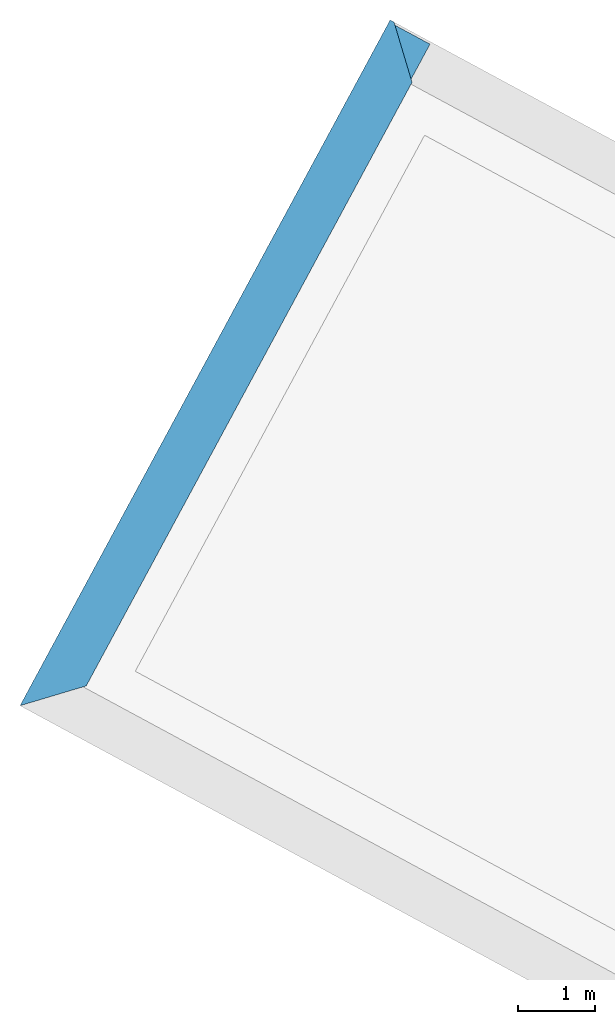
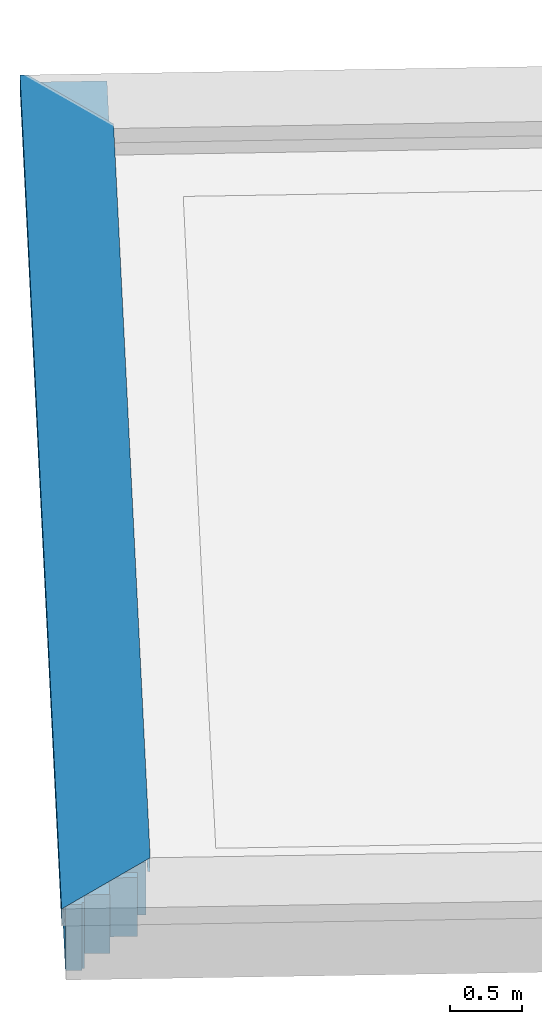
# One storey, part 2 of 5: 1 wall.
"""IFC2X3 building model written with IfcOpenShell, lengths in metres."""

from ifc_helpers import new_model, entity, si_unit, converted_unit, derived_unit, money_unit, direction, frame, origin_with_axes, place, context, subcontext, project, spatial, faceted_brep, material, material_list, type_object, element, save


model = new_model("IFC2X3")

# Units and contexts
model_context = context("Model", 3, precision=1e-05, world=origin_with_axes(), true_north=direction((0.0, 1.0)))
body_context = subcontext(model_context, "Body", "Model", "MODEL_VIEW")
ifc_project = project(units=[si_unit("LENGTHUNIT", "METRE"), si_unit("AREAUNIT", "SQUARE_METRE"), si_unit("VOLUMEUNIT", "CUBIC_METRE"), converted_unit("PLANEANGLEUNIT", "DEGREE", entity("IfcPlaneAngleMeasure", 0.0174532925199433), si_unit("PLANEANGLEUNIT", "RADIAN"), dimensions=[0, 0, 0, 0, 0, 0, 0]), money_unit("EUR"), converted_unit("TIMEUNIT", "Year", entity("IfcTimeMeasure", 31556926.0), si_unit("TIMEUNIT", "SECOND"), dimensions=[0, 0, 1, 0, 0, 0, 0]), si_unit("MASSUNIT", "GRAM", prefix="KILO"), si_unit("THERMODYNAMICTEMPERATUREUNIT", "DEGREE_CELSIUS"), si_unit("LUMINOUSINTENSITYUNIT", "LUMEN"), si_unit("ENERGYUNIT", "JOULE", prefix="MEGA"), derived_unit("THERMALCONDUCTANCEUNIT", [(si_unit("POWERUNIT", "WATT"), 1), (si_unit("LENGTHUNIT", "METRE"), -1), (si_unit("THERMODYNAMICTEMPERATUREUNIT", "KELVIN"), -1)]), derived_unit("SPECIFICHEATCAPACITYUNIT", [(si_unit("ENERGYUNIT", "JOULE"), 1), (si_unit("MASSUNIT", "GRAM", prefix="KILO"), -1), (si_unit("THERMODYNAMICTEMPERATUREUNIT", "KELVIN"), -1)]), derived_unit("MASSDENSITYUNIT", [(si_unit("MASSUNIT", "GRAM", prefix="KILO"), 1), (si_unit("VOLUMEUNIT", "CUBIC_METRE"), -1)])], contexts=[model_context])

# Site, building, storey
site_placement = place(None, frame((-3.949935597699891, 1.740105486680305, 0.0), z_axis=(0.0, 0.0, 1.0), x_axis=(0.8799804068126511, -0.475009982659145, 0.0)))
site = spatial("IfcSite", under=ifc_project, at=site_placement, Name="Gelände", CompositionType="ELEMENT")
building_placement = place(site_placement, origin_with_axes())
building = spatial("IfcBuilding", under=site, at=building_placement, Name="Gebäude", CompositionType="ELEMENT")
storey_placement = place(building_placement, frame((0.0, 0.0, 7.904999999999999), z_axis=(0.0, 0.0, 1.0), x_axis=(1.0, 0.0, 0.0)))
storey = spatial("IfcBuildingStorey", under=building, at=storey_placement, Name="Dachaufsicht", CompositionType="ELEMENT", Elevation=7.905)

# Wall
ifc_material_1 = material(Name="_SIWH - Metall, Aluminium")
ifc_material_2 = material(Name="_SIWH - MW Vormauerziegel")
ifc_material_3 = material(Name="_SIWH - Luftschicht vertikal")
ifc_material_4 = material(Name="_SIWH - Dämmung, weich Mineralwolle")
ifc_material_5 = material(Name="_SIWH - Beton, Stahlbeton")
ifc_material_6 = material(Name="_SIWH - Dämmung, hart Mineralwolle")
ifc_material_7 = material(Name="_SIWH - Holz, Bauholz")
ifc_material_list = material_list([ifc_material_1, ifc_material_2, ifc_material_3, ifc_material_4, ifc_material_5, ifc_material_6, ifc_material_7])
wall_type = type_object("IfcWallType", Name="_SIWH - Attika 1.OG 635 x 625", PredefinedType="NOTDEFINED")
wall_placement = place(storey_placement, frame((5.397480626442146, 1.424987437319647, -0.1909999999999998), z_axis=(0.0, 0.0, 1.0), x_axis=(0.0, 1.0, 0.0)))
element("IfcWall", 1, at=wall_placement, inside=storey, type_object=wall_type, material=ifc_material_list, Name="A-Wand033", context=body_context, shape_type="Brep", body=[
    faceted_brep([(-0.3441249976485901, 0.3449999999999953, 0.4808750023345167), (-0.3449999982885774, 0.3449999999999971, 0.4800000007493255), (-0.3441249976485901, 0.3441249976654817, 0.4808750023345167), (-0.3401715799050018, 0.3449999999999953, 0.484828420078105), (-0.3430000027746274, 0.3449999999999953, 0.4848284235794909), (-0.3430000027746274, 0.3449999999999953, 0.4857034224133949), (-0.3430000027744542, 0.3449999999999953, 0.4999999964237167), (-0.3430000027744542, 0.3449999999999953, 0.5014142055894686), (-0.3430000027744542, 0.3449999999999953, 0.5020656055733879), (-0.3430000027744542, 0.3449999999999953, 0.5599999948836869), (-0.3430000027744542, 0.3449999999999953, 0.5849999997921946), (-0.3430000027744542, 0.3449999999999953, 0.6229287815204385), (-0.2858221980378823, 0.3449999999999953, 0.6229287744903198), (-0.3449999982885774, 0.3449999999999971, 0.6249999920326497), (9.77781358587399, 0.3449999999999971, 0.6249999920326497), (9.77781358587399, 0.3449999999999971, 0.4800000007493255), (9.77781358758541, 0.3401715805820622, 0.4848284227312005), (9.77581359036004, 0.3401715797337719, 0.4848284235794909), (9.77493858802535, 0.3392965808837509, 0.4857034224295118), (9.760642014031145, 0.325000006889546, 0.4999999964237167), (-0.3249999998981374, 0.325000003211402, 0.500000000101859), (-0.3392965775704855, 0.3392965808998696, 0.4857034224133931), (-0.3401715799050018, 0.3401715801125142, 0.4848284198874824), (-0.340171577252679, 0.3430000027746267, 0.4848284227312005), (-0.3430000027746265, 0.3430000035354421, 0.4848284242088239), (-0.3430000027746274, 0.3430000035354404, 0.4857034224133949), (-0.3430000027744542, 0.3430000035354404, 0.4999999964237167), (-0.3430000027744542, 0.3430000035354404, 0.5014142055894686), (-0.3430000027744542, 0.3430000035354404, 0.5020656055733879), (-0.3430000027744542, 0.3430000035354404, 0.5599999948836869), (-0.3430000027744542, 0.3430000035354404, 0.5849999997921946), (-0.3430000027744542, 0.3430000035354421, 0.6229287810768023), (-0.2858221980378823, 0.3429999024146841, 0.6229287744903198), (-0.2858221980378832, 0.2858223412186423, 0.6229287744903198), (0.2900000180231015, -0.2900000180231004, 0.6027749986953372), (9.199991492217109, -0.2900000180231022, 0.6027749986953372), (9.775813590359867, 0.2858222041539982, 0.6229287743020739), (9.77781358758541, 0.2858221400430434, 0.6229287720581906), (9.77781358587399, 0.3430000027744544, 0.6229287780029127), (9.77781358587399, 0.3430000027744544, 0.4848284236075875), (9.77581359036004, 0.3430000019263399, 0.4848284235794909), (9.77493858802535, 0.342125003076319, 0.4857034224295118), (9.760642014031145, 0.3278284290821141, 0.4999999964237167), (-0.3264142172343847, 0.3264142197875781, 0.5014142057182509), (9.759227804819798, 0.3264142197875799, 0.5014142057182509), (-0.3392965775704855, 0.3421250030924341, 0.4857034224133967), (-0.3249999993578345, 0.327828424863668, 0.5000000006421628), (9.775813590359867, 0.3429999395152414, 0.6229287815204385), (0.2900000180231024, -0.2328220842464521, 0.6027750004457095), (0.2900000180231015, -0.2900000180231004, 0.4848284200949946), (0.2900000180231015, -0.2900000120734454, 0.4808750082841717), (9.14281356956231, -0.2900000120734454, 0.4808750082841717), (9.146766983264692, -0.2900000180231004, 0.4848284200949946), (9.147641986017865, -0.2900000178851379, 0.4857034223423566), (9.14481356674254, -0.2900000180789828, 0.4857034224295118), (9.144813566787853, -0.2900000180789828, 0.4999999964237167), (9.144813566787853, -0.2900000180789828, 0.5014142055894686), (9.144813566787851, -0.2900000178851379, 0.50206560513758), (9.144813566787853, -0.2900000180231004, 0.5599999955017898), (9.144813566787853, -0.2900000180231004, 0.5850000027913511), (9.144813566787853, -0.2900000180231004, 0.6008437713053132), (0.2900000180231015, -0.2900000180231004, 0.5849999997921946), (0.2900000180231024, -0.2900000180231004, 0.5599999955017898), (0.2900000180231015, -0.2900000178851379, 0.50206560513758), (0.2900000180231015, -0.290000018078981, 0.5014142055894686), (0.2900000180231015, -0.290000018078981, 0.4999999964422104), (0.2900000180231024, -0.2900000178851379, 0.4857034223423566), (9.144813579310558, -0.2880000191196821, 0.6008437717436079), (0.2900000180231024, -0.2880000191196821, 0.6008437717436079), (0.2900000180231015, -0.2880000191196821, 0.5849999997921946), (0.2900000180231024, -0.2860466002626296, 0.4848284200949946), (0.2880000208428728, -0.2851715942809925, 0.4857034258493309), (0.2737034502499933, -0.270875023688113, 0.4999999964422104), (0.2730520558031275, -0.2702236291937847, 0.5006513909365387), (9.162589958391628, -0.2702236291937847, 0.5006513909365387), (9.161938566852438, -0.2708750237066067, 0.4999999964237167), (9.147641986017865, -0.2851715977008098, 0.4857034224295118), (9.146766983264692, -0.2860466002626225, 0.4848284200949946), (0.2900000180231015, -0.2851715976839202, 0.4857034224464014), (9.147641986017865, -0.2880000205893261, 0.4857034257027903), (9.14481356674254, -0.2880000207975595, 0.4857034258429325), (9.144813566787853, -0.2880000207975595, 0.4999999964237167), (9.144813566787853, -0.2880000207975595, 0.5014142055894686), (9.144813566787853, -0.2880000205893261, 0.50206560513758), (9.144813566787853, -0.2880000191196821, 0.5599999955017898), (9.144813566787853, -0.2880000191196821, 0.5850000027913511), (0.2900000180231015, -0.2880000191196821, 0.5599999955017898), (0.2900000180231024, -0.2880000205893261, 0.50206560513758), (0.2900000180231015, -0.2880000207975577, 0.5014142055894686), (0.2900000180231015, -0.2880000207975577, 0.4999999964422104), (0.2900000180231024, -0.2880000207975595, 0.4857034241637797), (0.2737034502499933, -0.2737034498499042, 0.4999999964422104), (0.2880000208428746, -0.2880000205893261, 0.4857034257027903), (0.2722892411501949, -0.2722892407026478, 0.5014142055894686), (0.2722892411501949, -0.2709864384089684, 0.5014142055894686), (0.2716378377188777, -0.2716378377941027, 0.5020656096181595), (9.161175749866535, -0.2716378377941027, 0.5020656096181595), (9.16182714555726, -0.2709864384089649, 0.5014142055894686), (9.162589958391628, -0.2730520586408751, 0.5006513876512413), (9.161938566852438, -0.2737034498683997, 0.4999999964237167), (9.16182714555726, -0.2722892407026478, 0.5014142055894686)], [[[0, 1, 2]], [[1, 0, 3, 4, 5, 6, 7, 8, 9, 10, 11, 12, 13, 14, 15]], [[2, 1, 15, 16, 17, 18, 19, 20, 21, 22]], [[0, 2, 22, 23, 3]], [[24, 4, 3, 23]], [[5, 4, 24, 25]], [[6, 5, 25, 26]], [[6, 26, 27, 7]], [[8, 7, 27, 28]], [[9, 8, 28, 29]], [[10, 9, 29, 30]], [[10, 30, 31, 11]], [[11, 31, 32, 12]], [[13, 12, 32, 33]], [[14, 13, 33, 34, 35, 36, 37]], [[16, 15, 14, 37, 38, 39]], [[39, 40, 17, 16]], [[17, 40, 41, 18]], [[42, 19, 18, 41]], [[43, 20, 19, 44]], [[45, 21, 20, 46]], [[23, 22, 21, 45]], [[25, 24, 23, 40, 39, 38, 47, 32, 31, 30, 29, 28, 27, 26]], [[33, 32, 48, 34]], [[49, 50, 51, 52, 53, 54, 55, 56, 57, 58, 59, 60, 35, 34, 61, 62, 63, 64, 65, 66]], [[47, 36, 35, 60, 67]], [[47, 38, 37, 36]], [[23, 45, 46, 43, 44, 42, 41, 40]], [[19, 42, 44]], [[43, 46, 20]], [[32, 47, 67, 68, 48]], [[48, 68, 69, 61, 34]], [[70, 50, 49]], [[71, 72, 73, 74, 75, 76, 77, 51, 50, 70, 78]], [[51, 77, 52]], [[77, 76, 79, 53, 52]], [[79, 80, 54, 53]], [[80, 81, 55, 54]], [[81, 82, 56, 55]], [[82, 83, 57, 56]], [[83, 84, 58, 57]], [[84, 85, 59, 58]], [[85, 67, 60, 59]], [[69, 86, 62, 61]], [[86, 87, 63, 62]], [[63, 87, 88, 64]], [[88, 89, 65, 64]], [[89, 90, 66, 65]], [[70, 49, 66, 90, 78]], [[90, 89, 88, 87, 86, 69, 68, 67, 85, 84, 83, 82, 81, 80]], [[91, 72, 71, 92]], [[72, 91, 93, 94, 73]], [[73, 94, 95, 96, 97, 74]], [[75, 74, 98, 99]], [[75, 99, 79, 76]], [[71, 78, 90, 92]], [[93, 91, 92, 90, 80, 79, 99, 98, 100, 96, 95]], [[94, 93, 95]], [[100, 97, 96]], [[74, 97, 100, 98]]]),
    faceted_brep([(9.747813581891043, 0.1999999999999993, 0.5020656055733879), (9.747813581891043, 0.1999999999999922, 0.5599999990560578), (-0.1999999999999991, 0.1999999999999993, 0.5599999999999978), (-0.1999999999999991, 0.1999999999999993, 0.5020656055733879), (-0.1999999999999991, 0.1999999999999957, 0.5014142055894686), (-0.1999999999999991, 0.1999999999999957, 0.4999999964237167), (-0.1999999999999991, 0.1999999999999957, 0.4857034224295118), (-0.1999999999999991, 0.1999999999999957, 0.4848284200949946), (-0.1999999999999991, 0.1999999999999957, 0.4808750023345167), (-0.1999999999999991, 0.1999999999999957, 0.4799999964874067), (-0.1999999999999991, 0.1999999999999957, 0.1399999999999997), (-0.1999999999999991, 0.1999999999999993, 0.0), (9.747813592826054, 0.1999999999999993, 0.0), (9.747813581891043, 0.1999999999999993, 0.4799999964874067), (9.747813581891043, 0.1999999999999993, 0.4808750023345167), (9.747813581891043, 0.1999999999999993, 0.4848284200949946), (9.747813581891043, 0.1999999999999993, 0.4857034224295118), (9.747813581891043, 0.1999999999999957, 0.4999999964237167), (9.747813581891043, 0.1999999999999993, 0.5014142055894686), (9.747813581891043, 0.3149999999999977, 0.5599999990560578), (9.747813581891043, 0.3149999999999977, 0.5020656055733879), (-0.1999999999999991, 0.3149999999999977, 0.5599999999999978), (-0.1999999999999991, 0.3149999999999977, 0.5020656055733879), (-0.1999999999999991, 0.3149999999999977, 0.5014142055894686), (-0.1999999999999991, 0.3149999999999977, 0.4999999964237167), (-0.1999999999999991, 0.3149999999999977, 0.4857034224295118), (-0.1999999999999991, 0.3149999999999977, 0.4848284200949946), (-0.1999999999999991, 0.3149999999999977, 0.4808750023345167), (-0.1999999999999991, 0.3149999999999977, 0.4799999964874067), (-0.1999999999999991, 0.3149999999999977, 0.1399999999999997), (-0.1999999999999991, 0.3150000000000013, 0.0), (9.747813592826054, 0.3149999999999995, 0.0), (9.747813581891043, 0.3149999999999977, 0.4799999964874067), (9.747813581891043, 0.3149999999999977, 0.4808750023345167), (9.747813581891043, 0.3149999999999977, 0.4848284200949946), (9.747813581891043, 0.3149999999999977, 0.4857034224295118), (9.747813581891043, 0.3149999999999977, 0.4999999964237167), (9.747813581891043, 0.3149999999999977, 0.5014142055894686)], [[[0, 1, 2, 3, 4, 5, 6, 7, 8, 9, 10, 11, 12, 13, 14, 15, 16, 17, 18]], [[19, 1, 0, 20]], [[1, 19, 21, 2]], [[3, 2, 21, 22]], [[3, 22, 23, 4]], [[4, 23, 24, 5]], [[5, 24, 25, 6]], [[6, 25, 26, 7]], [[7, 26, 27, 8]], [[8, 27, 28, 9]], [[9, 28, 29, 10]], [[10, 29, 30, 11]], [[11, 30, 31, 12]], [[32, 13, 12, 31]], [[33, 14, 13, 32]], [[34, 15, 14, 33]], [[35, 16, 15, 34]], [[36, 17, 16, 35]], [[37, 18, 17, 36]], [[20, 0, 18, 37]], [[19, 20, 37, 36, 35, 34, 33, 32, 31, 30, 29, 28, 27, 26, 25, 24, 23, 22, 21]]]),
    faceted_brep([(9.632813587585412, 0.1800000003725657, 0.5020656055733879), (9.632813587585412, 0.1800000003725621, 0.5599999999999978), (-0.1800000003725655, 0.1800000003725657, 0.5599999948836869), (-0.1800000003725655, 0.1800000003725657, 0.5020656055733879), (-0.1800000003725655, 0.1800000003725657, 0.5014142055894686), (-0.1800000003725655, 0.1800000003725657, 0.4999999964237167), (-0.1800000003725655, 0.1800000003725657, 0.4857034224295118), (-0.1800000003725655, 0.1800000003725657, 0.4848284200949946), (-0.1800000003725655, 0.1800000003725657, 0.4808750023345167), (-0.1800000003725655, 0.1800000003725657, 0.4799999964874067), (-0.1800000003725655, 0.1800000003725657, 0.1399999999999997), (-0.1800000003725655, 0.1800000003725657, 0.0), (9.632813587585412, 0.1800000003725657, 0.0), (9.632813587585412, 0.1800000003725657, 0.1399999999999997), (9.632813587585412, 0.1800000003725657, 0.4799999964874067), (9.632813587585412, 0.1800000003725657, 0.4808750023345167), (9.632813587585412, 0.1800000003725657, 0.4848284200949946), (9.632813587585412, 0.1800000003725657, 0.4857034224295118), (9.632813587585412, 0.1800000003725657, 0.4999999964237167), (9.632813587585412, 0.1800000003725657, 0.5014142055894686), (9.632813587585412, 0.2000000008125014, 0.5599999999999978), (9.632813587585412, 0.200000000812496, 0.5020656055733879), (-0.1800000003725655, 0.2000000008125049, 0.5599999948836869), (-0.1800000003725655, 0.2000000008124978, 0.5020656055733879), (-0.1800000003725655, 0.2000000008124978, 0.5014142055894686), (-0.1800000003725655, 0.2000000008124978, 0.4999999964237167), (-0.1800000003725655, 0.2000000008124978, 0.4857034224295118), (-0.1800000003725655, 0.2000000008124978, 0.4848284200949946), (-0.1800000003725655, 0.2000000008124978, 0.4808750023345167), (-0.1800000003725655, 0.2000000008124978, 0.4799999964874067), (-0.1800000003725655, 0.2000000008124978, 0.1399999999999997), (-0.1800000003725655, 0.2000000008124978, 0.0), (9.632813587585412, 0.200000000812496, 0.0), (9.632813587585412, 0.200000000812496, 0.1399999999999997), (9.632813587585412, 0.200000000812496, 0.4799999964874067), (9.632813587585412, 0.200000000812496, 0.4808750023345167), (9.632813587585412, 0.200000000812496, 0.4848284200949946), (9.632813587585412, 0.200000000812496, 0.4857034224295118), (9.632813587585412, 0.200000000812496, 0.4999999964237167), (9.632813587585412, 0.200000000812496, 0.5014142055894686)], [[[0, 1, 2, 3, 4, 5, 6, 7, 8, 9, 10, 11, 12, 13, 14, 15, 16, 17, 18, 19]], [[20, 1, 0, 21]], [[1, 20, 22, 2]], [[3, 2, 22, 23]], [[3, 23, 24, 4]], [[4, 24, 25, 5]], [[5, 25, 26, 6]], [[6, 26, 27, 7]], [[7, 27, 28, 8]], [[8, 28, 29, 9]], [[9, 29, 30, 10]], [[10, 30, 31, 11]], [[32, 12, 11, 31]], [[33, 13, 12, 32]], [[34, 14, 13, 33]], [[35, 15, 14, 34]], [[36, 16, 15, 35]], [[37, 17, 16, 36]], [[38, 18, 17, 37]], [[39, 19, 18, 38]], [[21, 0, 19, 39]], [[20, 21, 39, 38, 37, 36, 35, 34, 33, 32, 31, 30, 29, 28, 27, 26, 25, 24, 23, 22]]]),
    faceted_brep([(9.612813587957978, -9.76154268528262e-10, 0.4857034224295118), (9.612813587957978, -9.76154268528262e-10, 0.4999999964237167), (9.761553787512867e-10, -9.761613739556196e-10, 0.4999999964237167), (9.761553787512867e-10, -9.76154268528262e-10, 0.4857034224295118), (9.761553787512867e-10, -9.76154268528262e-10, 0.4848284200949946), (9.761553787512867e-10, -9.76154268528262e-10, 0.4808750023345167), (9.761553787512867e-10, -9.76154268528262e-10, 0.4799999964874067), (9.761553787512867e-10, -9.76154268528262e-10, 0.1399999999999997), (9.761553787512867e-10, -9.76154268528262e-10, 0.0), (9.612813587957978, -9.76154268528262e-10, 0.0), (9.612813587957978, -9.76154268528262e-10, 0.1399999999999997), (9.612813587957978, -9.76154268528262e-10, 0.4799999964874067), (9.612813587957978, -9.76154268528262e-10, 0.4808750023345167), (9.612813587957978, -9.76154268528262e-10, 0.4848284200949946), (9.612813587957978, 0.1799999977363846, 0.4999999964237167), (9.612813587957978, 0.1799999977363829, 0.4857034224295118), (9.761553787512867e-10, 0.1799999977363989, 0.4999999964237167), (9.761553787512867e-10, 0.1799999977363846, 0.4857034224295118), (9.761553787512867e-10, 0.1799999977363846, 0.4848284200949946), (9.761553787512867e-10, 0.1799999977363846, 0.4808750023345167), (9.761553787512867e-10, 0.1799999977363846, 0.4799999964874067), (9.761553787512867e-10, 0.1799999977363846, 0.1399999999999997), (9.761553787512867e-10, 0.1799999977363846, 0.0), (9.612813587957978, 0.1799999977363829, 0.0), (9.612813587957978, 0.1799999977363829, 0.1399999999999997), (9.612813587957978, 0.1799999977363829, 0.4799999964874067), (9.612813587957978, 0.1799999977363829, 0.4808750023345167), (9.612813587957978, 0.1799999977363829, 0.4848284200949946)], [[[0, 1, 2, 3, 4, 5, 6, 7, 8, 9, 10, 11, 12, 13]], [[14, 1, 0, 15]], [[1, 14, 16, 2]], [[16, 17, 3, 2]], [[18, 4, 3, 17]], [[18, 19, 5, 4]], [[20, 6, 5, 19]], [[20, 21, 7, 6]], [[22, 8, 7, 21]], [[22, 23, 9, 8]], [[24, 10, 9, 23]], [[11, 10, 24, 25]], [[11, 25, 26, 12]], [[26, 27, 13, 12]], [[15, 0, 13, 27]], [[14, 15, 27, 26, 25, 24, 23, 22, 21, 20, 19, 18, 17, 16]]]),
    faceted_brep([(9.432813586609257, -0.2000000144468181, 0.4848284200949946), (9.432813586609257, -0.2000000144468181, 0.4857034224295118), (9.432813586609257, -0.2000000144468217, 0.4999999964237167), (0.2000000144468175, -0.2000000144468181, 0.4999999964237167), (0.2000000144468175, -0.2000000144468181, 0.4857034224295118), (0.2000000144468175, -0.2000000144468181, 0.4848284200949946), (0.2000000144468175, -0.2000000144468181, 0.4808750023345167), (0.2000000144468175, -0.2000000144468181, 0.4799999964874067), (0.2000000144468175, -0.2000000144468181, 0.1399999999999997), (9.432813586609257, -0.2000000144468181, 0.1399999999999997), (9.432813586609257, -0.2000000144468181, 0.4799999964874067), (9.432813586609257, -0.2000000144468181, 0.4808750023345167), (9.432813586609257, -2.525876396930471e-09, 0.4848284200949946), (9.432813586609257, -2.525876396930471e-09, 0.4857034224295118), (9.432813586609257, -2.525876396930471e-09, 0.4999999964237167), (0.2000000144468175, -2.525876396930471e-09, 0.4999999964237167), (0.2000000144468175, -2.525876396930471e-09, 0.4857034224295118), (0.2000000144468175, -2.525876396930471e-09, 0.4848284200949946), (0.2000000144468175, -2.525876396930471e-09, 0.4808750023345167), (0.2000000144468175, -2.525876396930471e-09, 0.4799999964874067), (0.2000000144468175, -2.525876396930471e-09, 0.1399999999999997), (9.432813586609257, -0.2000000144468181, 0.0), (0.2000000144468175, -0.2000000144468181, 0.0), (9.432813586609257, -2.525876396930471e-09, 0.1399999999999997), (9.432813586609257, -2.525876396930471e-09, 0.4799999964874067), (9.432813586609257, -2.525876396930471e-09, 0.4808750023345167), (9.432813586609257, -2.525876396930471e-09, 0.0), (0.2000000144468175, -2.525876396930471e-09, 0.0)], [[[0, 1, 2, 3, 4, 5, 6, 7, 8, 9, 10, 11]], [[12, 13, 1, 0]], [[13, 14, 2, 1]], [[3, 2, 14, 15]], [[4, 3, 15, 16]], [[4, 16, 17, 5]], [[17, 18, 6, 5]], [[6, 18, 19, 7]], [[19, 20, 8, 7]], [[21, 9, 8, 22]], [[9, 23, 24, 10]], [[11, 10, 24, 25]], [[12, 0, 11, 25]], [[15, 14, 13, 12, 25, 24, 23, 26, 27, 20, 19, 18, 17, 16]], [[8, 20, 27, 22]], [[26, 23, 9, 21]], [[26, 21, 22, 27]]]),
    faceted_brep([(9.612813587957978, -0.2600000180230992, 0.5014142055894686), (9.612813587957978, -0.2600000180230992, 0.5020656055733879), (9.612813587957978, -0.2600000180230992, 0.5599999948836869), (0.2600000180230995, -0.2600000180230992, 0.5599999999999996), (0.2600000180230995, -0.2600000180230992, 0.5020656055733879), (0.2600000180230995, -0.2600000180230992, 0.5014142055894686), (0.2600000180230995, -0.2600000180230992, 0.4999999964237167), (0.2600000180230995, -0.2600000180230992, 0.4857034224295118), (0.2600000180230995, -0.2600000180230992, 0.4848284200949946), (0.2600000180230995, -0.2600000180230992, 0.4808750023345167), (0.2600000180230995, -0.2600000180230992, 0.4799999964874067), (0.2600000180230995, -0.2600000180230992, 0.1399999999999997), (9.232813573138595, -0.2600000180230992, 0.1399999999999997), (9.232813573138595, -0.2600000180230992, 0.4799999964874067), (9.232813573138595, -0.2600000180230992, 0.4808750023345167), (9.232813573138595, -0.2600000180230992, 0.4848284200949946), (9.232813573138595, -0.2600000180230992, 0.4857034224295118), (9.232813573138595, -0.2600000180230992, 0.4999999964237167), (9.432813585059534, -0.2600000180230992, 0.4999999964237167), (9.612813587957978, -0.2600000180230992, 0.4999999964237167), (9.612813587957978, 0.1799999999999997, 0.5014142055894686), (9.612813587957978, 0.1799999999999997, 0.5020656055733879), (9.612813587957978, 0.1799999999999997, 0.5599999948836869), (0.2600000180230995, 0.1799999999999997, 0.5599999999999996), (0.2600000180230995, 0.1799999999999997, 0.5020656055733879), (0.2600000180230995, 0.1799999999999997, 0.5014142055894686), (0.2600000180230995, 0.1799999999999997, 0.4999999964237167), (0.2600000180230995, -0.2000000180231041, 0.4999999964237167), (0.2600000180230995, -0.2000000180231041, 0.4857034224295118), (0.2600000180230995, -0.2000000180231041, 0.4848284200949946), (0.2600000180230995, -0.2000000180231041, 0.4808750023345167), (0.2600000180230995, -0.2000000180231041, 0.4799999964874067), (0.2600000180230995, -0.2000000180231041, 0.1399999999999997), (9.232813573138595, -0.2000000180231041, 0.1399999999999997), (9.232813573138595, -0.2000000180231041, 0.4799999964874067), (9.232813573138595, -0.2000000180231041, 0.4808750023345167), (9.232813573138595, -0.2000000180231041, 0.4848284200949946), (9.232813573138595, -0.2000000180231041, 0.4857034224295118), (9.232813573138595, -0.2000000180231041, 0.4999999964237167), (9.432813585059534, -0.2000000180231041, 0.4999999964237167), (9.612813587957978, -0.2000000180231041, 0.4999999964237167), (9.612813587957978, 0.1799999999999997, 0.4999999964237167)], [[[0, 1, 2, 3, 4, 5, 6, 7, 8, 9, 10, 11, 12, 13, 14, 15, 16, 17, 18, 19]], [[20, 21, 1, 0]], [[21, 22, 2, 1]], [[3, 2, 22, 23]], [[24, 4, 3, 23]], [[5, 4, 24, 25]], [[25, 26, 27, 6, 5]], [[7, 6, 27, 28]], [[7, 28, 29, 8]], [[9, 8, 29, 30]], [[9, 30, 31, 10]], [[11, 10, 31, 32]], [[33, 12, 11, 32]], [[13, 12, 33, 34]], [[13, 34, 35, 14]], [[35, 36, 15, 14]], [[37, 16, 15, 36]], [[17, 16, 37, 38]], [[39, 18, 17, 38]], [[19, 18, 39, 40]], [[20, 0, 19, 40, 41]], [[23, 22, 21, 20, 41, 26, 25, 24]], [[26, 41, 40, 39, 38, 27]], [[34, 33, 32, 31, 30, 29, 28, 27, 38, 37, 36, 35]]]),
    faceted_brep([(9.747813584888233, -0.2600000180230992, 0.5599999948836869), (9.747813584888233, -0.2600000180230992, 0.5850000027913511), (0.2600000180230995, -0.2600000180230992, 0.5849999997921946), (0.2600000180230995, -0.2600000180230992, 0.5599999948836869), (9.747813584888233, 0.3149999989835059, 0.5850000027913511), (9.747813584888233, 0.3149999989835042, 0.5599999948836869), (0.2600000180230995, 0.3149999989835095, 0.5849999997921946), (0.2600000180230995, 0.3149999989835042, 0.5599999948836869)], [[[0, 1, 2, 3]], [[4, 1, 0, 5]], [[1, 4, 6, 2]], [[3, 2, 6, 7]], [[5, 0, 3, 7]], [[4, 5, 7, 6]]]),
])

save(model, "model.ifc")
